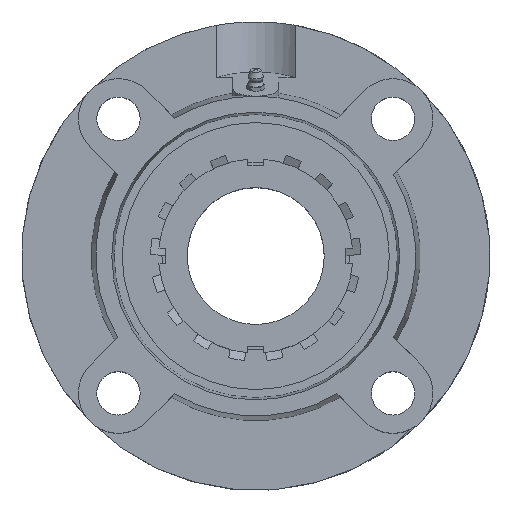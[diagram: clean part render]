
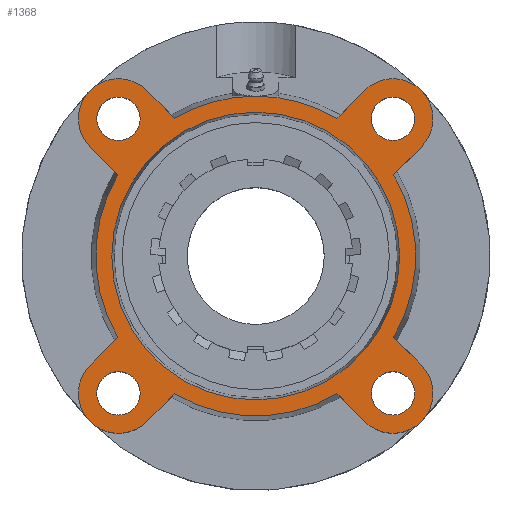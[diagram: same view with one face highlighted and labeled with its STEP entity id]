
A CAD part, top view. The second image highlights one B-rep face of the part: STEP entity #1368.
In plain terms, the highlighted planar face has unit normal (0, 0, 1).
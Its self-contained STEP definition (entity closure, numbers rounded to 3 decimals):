
#181=CARTESIAN_POINT('',(-50.604,-60.104,22.));
#182=VERTEX_POINT('',#181);
#183=CARTESIAN_POINT('',(-60.104,-60.104,22.));
#184=DIRECTION('',(0.0,0.0,-1.0));
#185=DIRECTION('',(1.0,0.0,0.0));
#186=AXIS2_PLACEMENT_3D('',#183,#184,#185);
#187=CIRCLE('',#186,9.5);
#188=EDGE_CURVE('',#182,#182,#187,.T.);
#209=CARTESIAN_POINT('',(-50.604,60.104,22.));
#210=VERTEX_POINT('',#209);
#211=CARTESIAN_POINT('',(-60.104,60.104,22.));
#212=DIRECTION('',(0.0,0.0,-1.0));
#213=DIRECTION('',(1.0,0.0,0.0));
#214=AXIS2_PLACEMENT_3D('',#211,#212,#213);
#215=CIRCLE('',#214,9.5);
#216=EDGE_CURVE('',#210,#210,#215,.T.);
#237=CARTESIAN_POINT('',(69.604,60.104,22.));
#238=VERTEX_POINT('',#237);
#239=CARTESIAN_POINT('',(60.104,60.104,22.));
#240=DIRECTION('',(0.0,0.0,-1.0));
#241=DIRECTION('',(1.0,0.0,0.0));
#242=AXIS2_PLACEMENT_3D('',#239,#240,#241);
#243=CIRCLE('',#242,9.5);
#244=EDGE_CURVE('',#238,#238,#243,.T.);
#265=CARTESIAN_POINT('',(69.604,-60.104,22.));
#266=VERTEX_POINT('',#265);
#267=CARTESIAN_POINT('',(60.104,-60.104,22.));
#268=DIRECTION('',(0.0,0.0,-1.0));
#269=DIRECTION('',(1.0,0.0,0.0));
#270=AXIS2_PLACEMENT_3D('',#267,#268,#269);
#271=CIRCLE('',#270,9.5);
#272=EDGE_CURVE('',#266,#266,#271,.T.);
#373=CARTESIAN_POINT('',(0.0,63.,22.));
#374=VERTEX_POINT('',#373);
#375=CARTESIAN_POINT('',(0.0,0.,22.0));
#376=DIRECTION('',(0.0,0.0,-1.0));
#377=DIRECTION('',(0.0,1.0,0.0));
#378=AXIS2_PLACEMENT_3D('',#375,#376,#377);
#379=CIRCLE('',#378,63.);
#380=EDGE_CURVE('',#374,#374,#379,.T.);
#666=CARTESIAN_POINT('',(0.,70.,22.));
#667=VERTEX_POINT('',#666);
#824=CARTESIAN_POINT('',(-35.551,60.3,22.));
#825=VERTEX_POINT('',#824);
#839=CARTESIAN_POINT('',(0.0,0.,22.));
#840=DIRECTION('',(0.0,0.0,1.0));
#841=DIRECTION('',(0.0,-1.0,0.0));
#842=AXIS2_PLACEMENT_3D('',#839,#840,#841);
#843=CIRCLE('',#842,70.);
#844=EDGE_CURVE('',#667,#825,#843,.T.);
#854=CARTESIAN_POINT('',(-35.551,-60.3,22.));
#855=VERTEX_POINT('',#854);
#871=CARTESIAN_POINT('',(-47.73,-72.478,22.));
#872=VERTEX_POINT('',#871);
#873=CARTESIAN_POINT('',(-35.551,-60.3,22.));
#874=DIRECTION('',(-0.707,-0.707,0.));
#875=VECTOR('',#874,17.223);
#876=LINE('',#873,#875);
#877=EDGE_CURVE('',#855,#872,#876,.T.);
#901=CARTESIAN_POINT('',(-60.3,35.551,22.));
#902=VERTEX_POINT('',#901);
#918=CARTESIAN_POINT('',(-72.478,47.73,22.));
#919=VERTEX_POINT('',#918);
#920=CARTESIAN_POINT('',(-60.3,35.551,22.));
#921=DIRECTION('',(-0.707,0.707,0.));
#922=VECTOR('',#921,17.223);
#923=LINE('',#920,#922);
#924=EDGE_CURVE('',#902,#919,#923,.T.);
#948=CARTESIAN_POINT('',(60.3,-35.551,22.));
#949=VERTEX_POINT('',#948);
#965=CARTESIAN_POINT('',(72.478,-47.73,22.));
#966=VERTEX_POINT('',#965);
#967=CARTESIAN_POINT('',(60.3,-35.551,22.));
#968=DIRECTION('',(0.707,-0.707,0.));
#969=VECTOR('',#968,17.223);
#970=LINE('',#967,#969);
#971=EDGE_CURVE('',#949,#966,#970,.T.);
#995=CARTESIAN_POINT('',(35.551,60.3,22.));
#996=VERTEX_POINT('',#995);
#1010=CARTESIAN_POINT('',(47.73,72.478,22.));
#1011=VERTEX_POINT('',#1010);
#1012=CARTESIAN_POINT('',(35.551,60.3,22.));
#1013=DIRECTION('',(0.707,0.707,0.));
#1014=VECTOR('',#1013,17.223);
#1015=LINE('',#1012,#1014);
#1016=EDGE_CURVE('',#996,#1011,#1015,.T.);
#1035=CARTESIAN_POINT('',(60.3,35.551,22.));
#1036=VERTEX_POINT('',#1035);
#1058=CARTESIAN_POINT('',(72.478,47.73,22.));
#1059=VERTEX_POINT('',#1058);
#1066=CARTESIAN_POINT('',(72.478,47.73,22.));
#1067=DIRECTION('',(-0.707,-0.707,0.));
#1068=VECTOR('',#1067,17.223);
#1069=LINE('',#1066,#1068);
#1070=EDGE_CURVE('',#1059,#1036,#1069,.T.);
#1080=CARTESIAN_POINT('',(-72.478,-47.73,22.));
#1081=VERTEX_POINT('',#1080);
#1082=CARTESIAN_POINT('',(-60.104,-60.104,22.));
#1083=DIRECTION('',(0.0,0.0,-1.0));
#1084=DIRECTION('',(-0.707,0.707,0.0));
#1085=AXIS2_PLACEMENT_3D('',#1082,#1083,#1084);
#1086=CIRCLE('',#1085,17.5);
#1087=EDGE_CURVE('',#872,#1081,#1086,.T.);
#1122=CARTESIAN_POINT('',(-60.3,-35.551,22.));
#1123=VERTEX_POINT('',#1122);
#1144=CARTESIAN_POINT('',(-72.478,-47.73,22.));
#1145=DIRECTION('',(0.707,0.707,0.));
#1146=VECTOR('',#1145,17.223);
#1147=LINE('',#1144,#1146);
#1148=EDGE_CURVE('',#1081,#1123,#1147,.T.);
#1158=CARTESIAN_POINT('',(-47.73,72.478,22.));
#1159=VERTEX_POINT('',#1158);
#1160=CARTESIAN_POINT('',(-60.104,60.104,22.));
#1161=DIRECTION('',(0.0,0.0,-1.0));
#1162=DIRECTION('',(0.707,0.707,0.0));
#1163=AXIS2_PLACEMENT_3D('',#1160,#1161,#1162);
#1164=CIRCLE('',#1163,17.5);
#1165=EDGE_CURVE('',#919,#1159,#1164,.T.);
#1193=CARTESIAN_POINT('',(-47.73,72.478,22.));
#1194=DIRECTION('',(0.707,-0.707,0.));
#1195=VECTOR('',#1194,17.223);
#1196=LINE('',#1193,#1195);
#1197=EDGE_CURVE('',#1159,#825,#1196,.T.);
#1207=CARTESIAN_POINT('',(47.73,-72.478,22.));
#1208=VERTEX_POINT('',#1207);
#1209=CARTESIAN_POINT('',(60.104,-60.104,22.));
#1210=DIRECTION('',(0.0,0.0,-1.0));
#1211=DIRECTION('',(-0.707,-0.707,0.0));
#1212=AXIS2_PLACEMENT_3D('',#1209,#1210,#1211);
#1213=CIRCLE('',#1212,17.5);
#1214=EDGE_CURVE('',#966,#1208,#1213,.T.);
#1249=CARTESIAN_POINT('',(35.551,-60.3,22.));
#1250=VERTEX_POINT('',#1249);
#1271=CARTESIAN_POINT('',(47.73,-72.478,22.));
#1272=DIRECTION('',(-0.707,0.707,0.));
#1273=VECTOR('',#1272,17.223);
#1274=LINE('',#1271,#1273);
#1275=EDGE_CURVE('',#1208,#1250,#1274,.T.);
#1285=CARTESIAN_POINT('',(60.104,60.104,22.));
#1286=DIRECTION('',(0.0,0.0,-1.0));
#1287=DIRECTION('',(0.707,-0.707,0.0));
#1288=AXIS2_PLACEMENT_3D('',#1285,#1286,#1287);
#1289=CIRCLE('',#1288,17.5);
#1290=EDGE_CURVE('',#1011,#1059,#1289,.T.);
#1305=CARTESIAN_POINT('',(0.0,-35.0,22.));
#1306=DIRECTION('',(0.0,0.0,1.0));
#1307=DIRECTION('',(1.0,0.0,0.0));
#1308=AXIS2_PLACEMENT_3D('',#1305,#1306,#1307);
#1309=PLANE('',#1308);
#1310=CARTESIAN_POINT('',(0.0,0.,22.));
#1311=DIRECTION('',(0.0,0.0,1.0));
#1312=DIRECTION('',(0.0,-1.0,0.0));
#1313=AXIS2_PLACEMENT_3D('',#1310,#1311,#1312);
#1314=CIRCLE('',#1313,70.);
#1315=EDGE_CURVE('',#855,#1250,#1314,.T.);
#1316=ORIENTED_EDGE('',*,*,#1315,.T.);
#1317=ORIENTED_EDGE('',*,*,#1275,.F.);
#1318=ORIENTED_EDGE('',*,*,#1214,.F.);
#1319=ORIENTED_EDGE('',*,*,#971,.F.);
#1320=CARTESIAN_POINT('',(0.0,0.,22.));
#1321=DIRECTION('',(0.0,0.0,1.0));
#1322=DIRECTION('',(0.0,-1.0,0.0));
#1323=AXIS2_PLACEMENT_3D('',#1320,#1321,#1322);
#1324=CIRCLE('',#1323,70.);
#1325=EDGE_CURVE('',#949,#1036,#1324,.T.);
#1326=ORIENTED_EDGE('',*,*,#1325,.T.);
#1327=ORIENTED_EDGE('',*,*,#1070,.F.);
#1328=ORIENTED_EDGE('',*,*,#1290,.F.);
#1329=ORIENTED_EDGE('',*,*,#1016,.F.);
#1330=CARTESIAN_POINT('',(0.0,0.,22.));
#1331=DIRECTION('',(0.0,0.0,1.0));
#1332=DIRECTION('',(0.0,-1.0,0.0));
#1333=AXIS2_PLACEMENT_3D('',#1330,#1331,#1332);
#1334=CIRCLE('',#1333,70.);
#1335=EDGE_CURVE('',#996,#667,#1334,.T.);
#1336=ORIENTED_EDGE('',*,*,#1335,.T.);
#1337=ORIENTED_EDGE('',*,*,#844,.T.);
#1338=ORIENTED_EDGE('',*,*,#1197,.F.);
#1339=ORIENTED_EDGE('',*,*,#1165,.F.);
#1340=ORIENTED_EDGE('',*,*,#924,.F.);
#1341=CARTESIAN_POINT('',(0.0,0.,22.));
#1342=DIRECTION('',(0.0,0.0,1.0));
#1343=DIRECTION('',(0.0,-1.0,0.0));
#1344=AXIS2_PLACEMENT_3D('',#1341,#1342,#1343);
#1345=CIRCLE('',#1344,70.);
#1346=EDGE_CURVE('',#902,#1123,#1345,.T.);
#1347=ORIENTED_EDGE('',*,*,#1346,.T.);
#1348=ORIENTED_EDGE('',*,*,#1148,.F.);
#1349=ORIENTED_EDGE('',*,*,#1087,.F.);
#1350=ORIENTED_EDGE('',*,*,#877,.F.);
#1351=EDGE_LOOP('',(#1316,#1317,#1318,#1319,#1326,#1327,#1328,#1329,#1336,#1337,#1338,#1339,#1340,#1347,#1348,#1349,#1350));
#1352=FACE_OUTER_BOUND('',#1351,.T.);
#1353=ORIENTED_EDGE('',*,*,#188,.T.);
#1354=EDGE_LOOP('',(#1353));
#1355=FACE_BOUND('',#1354,.T.);
#1356=ORIENTED_EDGE('',*,*,#216,.T.);
#1357=EDGE_LOOP('',(#1356));
#1358=FACE_BOUND('',#1357,.T.);
#1359=ORIENTED_EDGE('',*,*,#244,.T.);
#1360=EDGE_LOOP('',(#1359));
#1361=FACE_BOUND('',#1360,.T.);
#1362=ORIENTED_EDGE('',*,*,#272,.T.);
#1363=EDGE_LOOP('',(#1362));
#1364=FACE_BOUND('',#1363,.T.);
#1365=ORIENTED_EDGE('',*,*,#380,.T.);
#1366=EDGE_LOOP('',(#1365));
#1367=FACE_BOUND('',#1366,.T.);
#1368=ADVANCED_FACE('',(#1352,#1355,#1358,#1361,#1364,#1367),#1309,.T.);
